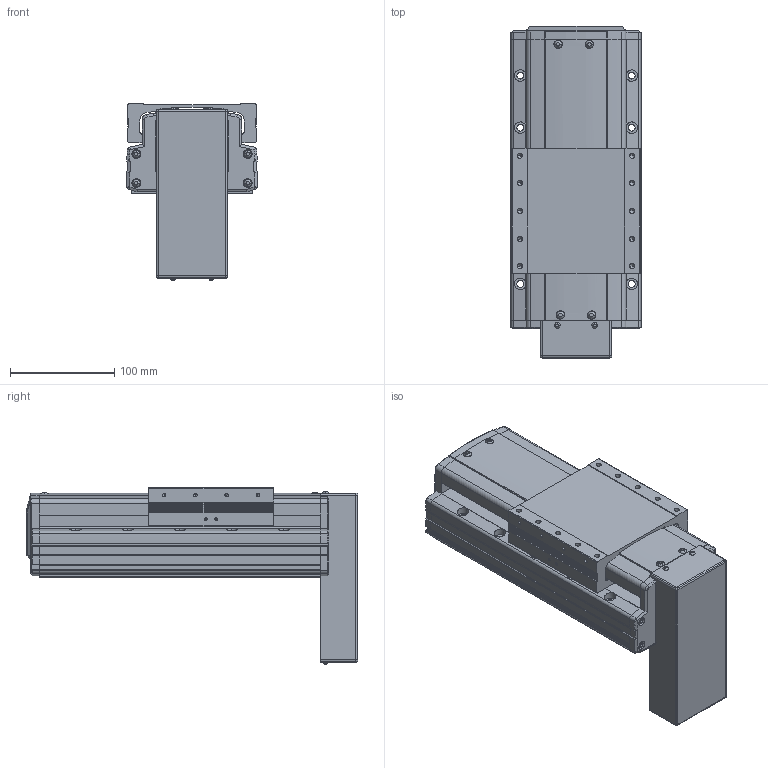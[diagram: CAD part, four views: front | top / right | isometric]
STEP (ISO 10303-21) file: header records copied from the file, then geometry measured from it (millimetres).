
FILE_DESCRIPTION(('STEP AP214'),'1');
FILE_NAME('Z:/Web/3D/PSA125/STP/PSA125-050 (3D)/PSA125ㅁㅁ-050PB.stp','2014-06-18T08:52:12',(' '),(' '),'Spatial InterOp 3D',' ',' ');
FILE_SCHEMA(('automotive_design'));
Length unit declared in the file: millimetre
Products named in the file (29): 스크루 : Round - M4.0 x 10.0; RRCV-PA120; SLIDE; BASE; FRCV-PA120-1(기준 뿔 제거); RR1500; 스크루 : Round - M4.0 x 6.0; 너트 : Square - M10.0 x 220.7419; 1; 2; 파트105; 스크루 : Round - M3.0 x 6.0
Bounding box: 125 x 318.6 x 169.06 mm (x, y, z)
Volume: 2952252.5 mm3; surface area: 315008.9 mm2
Topology: 29 solids, 29 shells, 2012 faces, 5345 edges, 3412 vertices
Faces by surface type: plane 1128, cylinder 558, cone 210, sphere 52, torus 33, bspline 31
Entity records: 80606 total; most frequent: CARTESIAN_POINT 13561, DIRECTION 10670, ORIENTED_EDGE 10478, EDGE_CURVE 5239, AXIS2_PLACEMENT_3D 3573, LINE 3524, VECTOR 3524, VERTEX_POINT 3412
